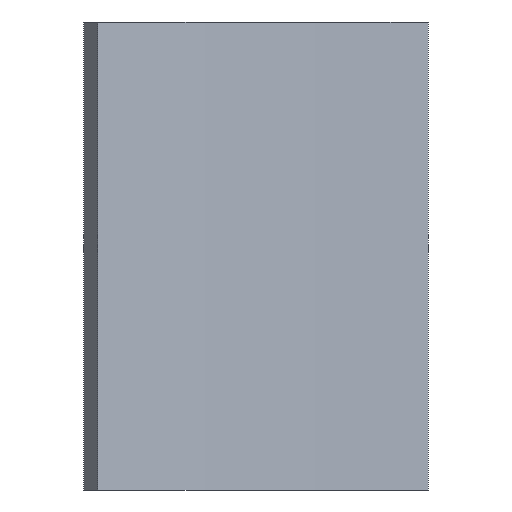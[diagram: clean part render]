
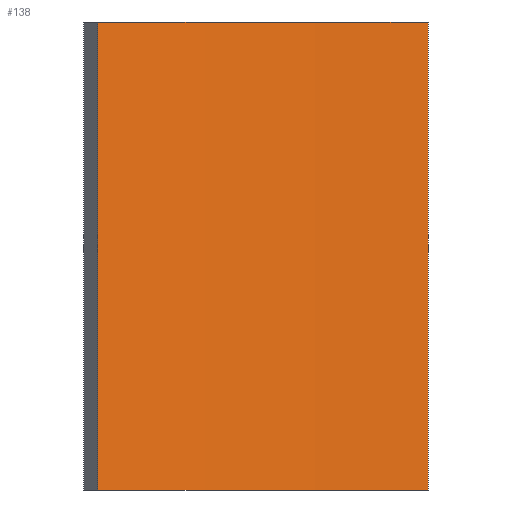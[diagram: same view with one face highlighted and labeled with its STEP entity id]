
A CAD part, front view. The second image highlights one B-rep face of the part: STEP entity #138.
In plain terms, the highlighted cylindrical face has radius 9.5 mm (diameter 19 mm), a partial arc.
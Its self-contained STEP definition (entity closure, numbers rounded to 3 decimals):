
#22 = VERTEX_POINT('',#23);
#23 = CARTESIAN_POINT('',(-1.877,9.313,-2.297));
#31 = EDGE_CURVE('',#22,#32,#34,.T.);
#32 = VERTEX_POINT('',#33);
#33 = CARTESIAN_POINT('',(-1.877,9.313,0.653));
#34 = LINE('',#35,#36);
#35 = CARTESIAN_POINT('',(-1.877,9.313,-10.));
#36 = VECTOR('',#37,1.);
#37 = DIRECTION('',(0.,0.,1.));
#62 = VERTEX_POINT('',#63);
#63 = CARTESIAN_POINT('',(-3.961,8.635,-2.297));
#71 = EDGE_CURVE('',#22,#62,#72,.T.);
#72 = CIRCLE('',#73,9.5);
#73 = AXIS2_PLACEMENT_3D('',#74,#75,#76);
#74 = CARTESIAN_POINT('',(0.,0.,-2.297));
#75 = DIRECTION('',(0.,0.,1.));
#76 = DIRECTION('',(1.,0.,0.));
#118 = VERTEX_POINT('',#119);
#119 = CARTESIAN_POINT('',(-3.961,8.635,0.653));
#125 = EDGE_CURVE('',#32,#118,#126,.T.);
#126 = CIRCLE('',#127,9.5);
#127 = AXIS2_PLACEMENT_3D('',#128,#129,#130);
#128 = CARTESIAN_POINT('',(0.,0.,0.653));
#129 = DIRECTION('',(0.,0.,1.));
#130 = DIRECTION('',(1.,0.,0.));
#138 = ADVANCED_FACE('',(#139),#150,.F.);
#139 = FACE_BOUND('',#140,.F.);
#140 = EDGE_LOOP('',(#141,#142,#143,#149));
#141 = ORIENTED_EDGE('',*,*,#31,.F.);
#142 = ORIENTED_EDGE('',*,*,#71,.T.);
#143 = ORIENTED_EDGE('',*,*,#144,.T.);
#144 = EDGE_CURVE('',#62,#118,#145,.T.);
#145 = LINE('',#146,#147);
#146 = CARTESIAN_POINT('',(-3.961,8.635,-10.));
#147 = VECTOR('',#148,1.);
#148 = DIRECTION('',(0.,0.,1.));
#149 = ORIENTED_EDGE('',*,*,#125,.F.);
#150 = CYLINDRICAL_SURFACE('',#151,9.5);
#151 = AXIS2_PLACEMENT_3D('',#152,#153,#154);
#152 = CARTESIAN_POINT('',(0.,0.,-10.));
#153 = DIRECTION('',(0.,0.,1.));
#154 = DIRECTION('',(1.,0.,0.));
